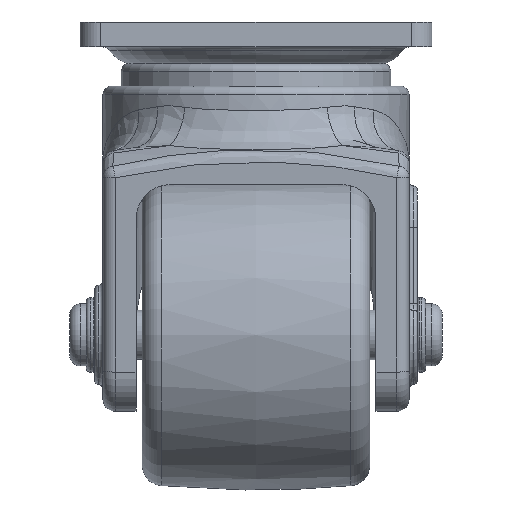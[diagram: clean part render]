
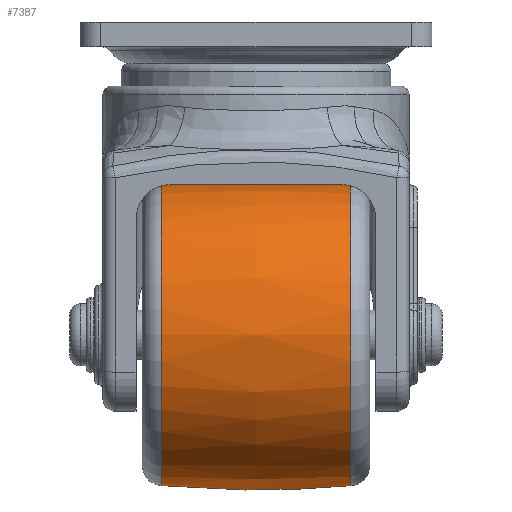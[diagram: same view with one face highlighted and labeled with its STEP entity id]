
A CAD part, left-side view. The second image highlights one B-rep face of the part: STEP entity #7387.
In plain terms, the highlighted free-form (B-spline) face has degree [2, 2] with [3, 9] control points.
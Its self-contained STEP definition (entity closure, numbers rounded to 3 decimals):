
#16=(
BOUNDED_CURVE()
B_SPLINE_CURVE(2,(#19258,#19259,#19260),.UNSPECIFIED.,.F.,.F.)
B_SPLINE_CURVE_WITH_KNOTS((3,3),(-0.092,0.092),
 .UNSPECIFIED.)
CURVE()
GEOMETRIC_REPRESENTATION_ITEM()
RATIONAL_B_SPLINE_CURVE((1.,0.996,1.))
REPRESENTATION_ITEM('')
);
#99=(
BOUNDED_SURFACE()
B_SPLINE_SURFACE(2,2,((#19230,#19231,#19232,#19233,#19234,#19235,#19236,
#19237,#19238),(#19239,#19240,#19241,#19242,#19243,#19244,#19245,#19246,
#19247),(#19248,#19249,#19250,#19251,#19252,#19253,#19254,#19255,#19256)),
 .UNSPECIFIED.,.F.,.T.,.F.)
B_SPLINE_SURFACE_WITH_KNOTS((3,3),(3,2,2,2,3),(-0.092,0.092),
(-3.142,-1.571,0.,1.571,3.142),
 .UNSPECIFIED.)
GEOMETRIC_REPRESENTATION_ITEM()
RATIONAL_B_SPLINE_SURFACE(((1.,0.707,1.,0.707,1.,
0.707,1.,0.707,1.),(0.996,0.704,
0.996,0.704,0.996,0.704,
0.996,0.704,0.996),(1.,0.707,
1.,0.707,1.,0.707,1.,0.707,1.)))
REPRESENTATION_ITEM('')
SURFACE()
);
#477=CIRCLE('',#7984,36.444);
#478=CIRCLE('',#7985,36.444);
#479=CIRCLE('',#7986,36.444);
#480=CIRCLE('',#7987,36.444);
#1450=FACE_OUTER_BOUND('',#2018,.T.);
#2018=EDGE_LOOP('',(#6200,#6201,#6202,#6203,#6204,#6205));
#3464=VERTEX_POINT('',#19226);
#3465=VERTEX_POINT('',#19227);
#3466=VERTEX_POINT('',#19257);
#3467=VERTEX_POINT('',#19261);
#4412=EDGE_CURVE('',#3464,#3465,#477,.T.);
#4413=EDGE_CURVE('',#3465,#3464,#478,.T.);
#4414=EDGE_CURVE('',#3465,#3466,#16,.T.);
#4415=EDGE_CURVE('',#3467,#3466,#479,.T.);
#4416=EDGE_CURVE('',#3466,#3467,#480,.T.);
#6200=ORIENTED_EDGE('',*,*,#4412,.T.);
#6201=ORIENTED_EDGE('',*,*,#4414,.T.);
#6202=ORIENTED_EDGE('',*,*,#4415,.F.);
#6203=ORIENTED_EDGE('',*,*,#4416,.F.);
#6204=ORIENTED_EDGE('',*,*,#4414,.F.);
#6205=ORIENTED_EDGE('',*,*,#4413,.T.);
#7387=ADVANCED_FACE('',(#1450),#99,.F.);
#7984=AXIS2_PLACEMENT_3D('',#19228,#9526,#9527);
#7985=AXIS2_PLACEMENT_3D('',#19229,#9528,#9529);
#7986=AXIS2_PLACEMENT_3D('',#19262,#9530,#9531);
#7987=AXIS2_PLACEMENT_3D('',#19263,#9532,#9533);
#9526=DIRECTION('center_axis',(0.,-1.,0.));
#9527=DIRECTION('ref_axis',(1.,0.,0.));
#9528=DIRECTION('center_axis',(0.,-1.,0.));
#9529=DIRECTION('ref_axis',(1.,0.,0.));
#9530=DIRECTION('center_axis',(0.,-1.,0.));
#9531=DIRECTION('ref_axis',(1.,0.,0.));
#9532=DIRECTION('center_axis',(0.,-1.,0.));
#9533=DIRECTION('ref_axis',(1.,0.,0.));
#19226=CARTESIAN_POINT('',(107.908,142.298,-20.8));
#19227=CARTESIAN_POINT('',(71.464,142.298,-57.244));
#19228=CARTESIAN_POINT('Origin',(71.464,142.298,-20.8));
#19229=CARTESIAN_POINT('Origin',(71.464,142.298,-20.8));
#19230=CARTESIAN_POINT('Ctrl Pts',(71.464,96.379,-57.244));
#19231=CARTESIAN_POINT('Ctrl Pts',(35.021,96.379,-57.244));
#19232=CARTESIAN_POINT('Ctrl Pts',(35.021,96.379,-20.8));
#19233=CARTESIAN_POINT('Ctrl Pts',(35.021,96.379,15.644));
#19234=CARTESIAN_POINT('Ctrl Pts',(71.464,96.379,15.644));
#19235=CARTESIAN_POINT('Ctrl Pts',(107.908,96.379,15.644));
#19236=CARTESIAN_POINT('Ctrl Pts',(107.908,96.379,-20.8));
#19237=CARTESIAN_POINT('Ctrl Pts',(107.908,96.379,-57.244));
#19238=CARTESIAN_POINT('Ctrl Pts',(71.464,96.379,-57.244));
#19239=CARTESIAN_POINT('Ctrl Pts',(71.464,119.339,-59.361));
#19240=CARTESIAN_POINT('Ctrl Pts',(32.903,119.339,-59.361));
#19241=CARTESIAN_POINT('Ctrl Pts',(32.903,119.339,-20.8));
#19242=CARTESIAN_POINT('Ctrl Pts',(32.903,119.339,17.761));
#19243=CARTESIAN_POINT('Ctrl Pts',(71.464,119.339,17.761));
#19244=CARTESIAN_POINT('Ctrl Pts',(110.025,119.339,17.761));
#19245=CARTESIAN_POINT('Ctrl Pts',(110.025,119.339,-20.8));
#19246=CARTESIAN_POINT('Ctrl Pts',(110.025,119.339,-59.361));
#19247=CARTESIAN_POINT('Ctrl Pts',(71.464,119.339,-59.361));
#19248=CARTESIAN_POINT('Ctrl Pts',(71.464,142.298,-57.244));
#19249=CARTESIAN_POINT('Ctrl Pts',(35.021,142.298,-57.244));
#19250=CARTESIAN_POINT('Ctrl Pts',(35.021,142.298,-20.8));
#19251=CARTESIAN_POINT('Ctrl Pts',(35.021,142.298,15.644));
#19252=CARTESIAN_POINT('Ctrl Pts',(71.464,142.298,15.644));
#19253=CARTESIAN_POINT('Ctrl Pts',(107.908,142.298,15.644));
#19254=CARTESIAN_POINT('Ctrl Pts',(107.908,142.298,-20.8));
#19255=CARTESIAN_POINT('Ctrl Pts',(107.908,142.298,-57.244));
#19256=CARTESIAN_POINT('Ctrl Pts',(71.464,142.298,-57.244));
#19257=CARTESIAN_POINT('',(71.464,96.379,-57.244));
#19258=CARTESIAN_POINT('Ctrl Pts',(71.464,142.298,-57.244));
#19259=CARTESIAN_POINT('Ctrl Pts',(71.464,119.339,-59.361));
#19260=CARTESIAN_POINT('Ctrl Pts',(71.464,96.379,-57.244));
#19261=CARTESIAN_POINT('',(107.908,96.379,-20.8));
#19262=CARTESIAN_POINT('Origin',(71.464,96.379,-20.8));
#19263=CARTESIAN_POINT('Origin',(71.464,96.379,-20.8));
